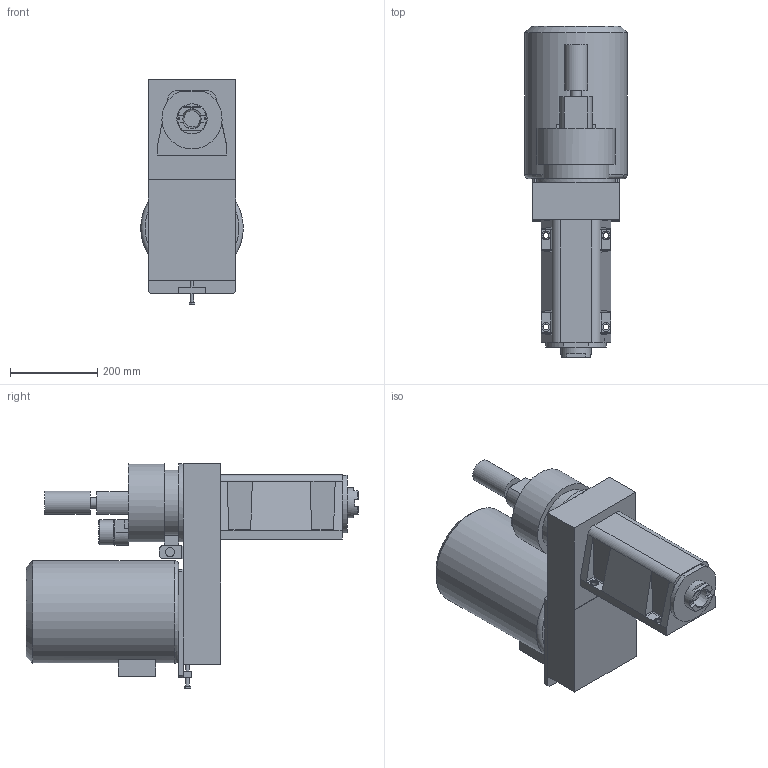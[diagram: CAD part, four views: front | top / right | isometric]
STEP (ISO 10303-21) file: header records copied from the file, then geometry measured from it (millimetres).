
FILE_DESCRIPTION((''),'2;1');
FILE_NAME('C:\VaultWork\Zeichnungen\Maßblätter\Spindeleinheiten\BF4\M01993-3-0 Maßblatt BF4-SK40 IKZ pneum Werkzspanner Z-Laterne 180grad gedreht.stp','2016-08-23T09:42:30',('AZUBI'),(''),'Autodesk Inventor 2012','Autodesk Inventor 2012','');
FILE_SCHEMA(('AUTOMOTIVE_DESIGN { 1 0 10303 214 1 1 1 1 }'));
Length unit declared in the file: millimetre
Products named in the file (1): M01993-3-0 Maßblatt BF4-SK40 IKZ pneum Werkzspanner Z-Laterne 180grad gedreht
Bounding box: 235 x 761.2 x 515.3 mm (x, y, z)
Volume: 32934557.7 mm3; surface area: 971098.5 mm2
Topology: 2 solids, 2 shells, 196 faces, 471 edges, 298 vertices
Faces by surface type: plane 131, cylinder 46, cone 18, torus 1
Full cylindrical faces by diameter (mm): 4.134 x1, 4.917 x2, 8 x2, 11.63 x1, 13.5 x4, 18.631 x1, 20 x4, 20.5 x2, 24 x1, 53 x1, 57 x1, 58 x1, 69 x1, 180 x2, 235 x1
Entity records: 5529 total; most frequent: CARTESIAN_POINT 965, DIRECTION 925, ORIENTED_EDGE 854, EDGE_CURVE 427, AXIS2_PLACEMENT_3D 330, VERTEX_POINT 286, VECTOR 265, LINE 265
